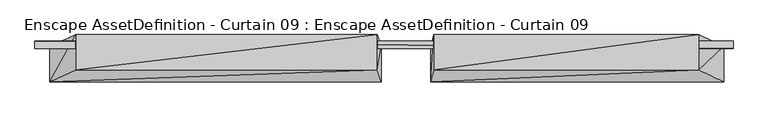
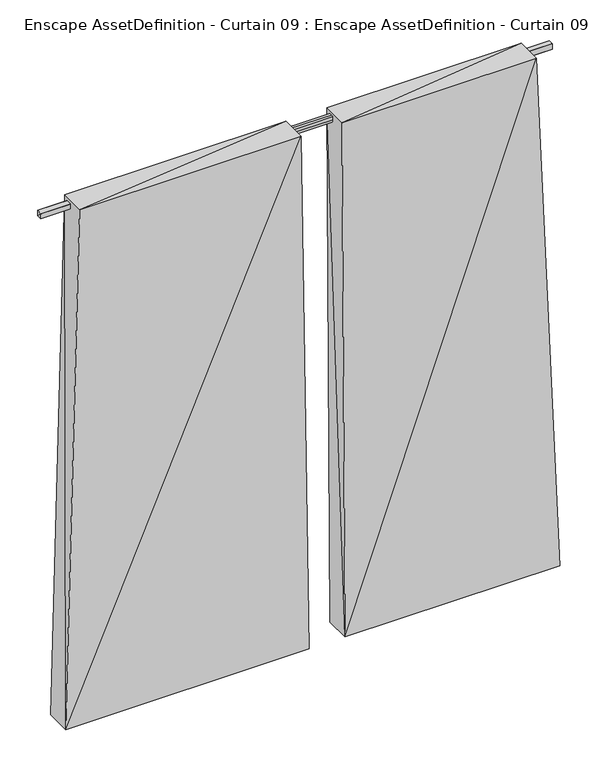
"""IFC4 building model written with IfcOpenShell, lengths in millimetres: geographic element geometry, Enscape AssetDefinition - Curtain 09 : Enscape AssetDefinition - Curtain 09."""

from ifc_helpers import new_model, si_unit, origin, place, context, project, spatial, faceted_brep, source, transform, mapped, element, save


def enscape_assetdefinition_curtain_09_enscape_assetdefinition_daeb34b5(model_context):
    return source(origin(), model_context, "Body", "Brep", [
        faceted_brep([(1143.8757181, -53.8365841, 2364.9013042), (1143.8757181, -28.9914757, 2364.9013042), (1143.8757181, -53.8365841, 2389.7464275), (-1146.6553211, -28.9914738, 2364.9010658), (-1146.6553211, -53.8365804, 2364.9010658), (1143.8757181, -28.9914776, 2389.7464275), (-1146.6553211, -53.8365841, 2389.7464275), (-1146.6553211, -28.9914738, 2389.7464275)], [[[0, 1, 2]], [[3, 1, 4]], [[2, 1, 5]], [[4, 1, 0]], [[3, 5, 1]], [[6, 2, 7]], [[6, 0, 2]], [[7, 2, 5]], [[4, 0, 6]], [[6, 3, 4]], [[7, 3, 6]], [[7, 5, 3]]]),
        faceted_brep([(1030.7382345, -124.5879456, 2405.0109386), (152.0700604, -163.6977643, 0.0), (1113.0684614, -163.6977643, 0.0001526), (152.0700008, -47.8807352, 0.0), (161.1238718, -8.7709744, 2405.0107002), (161.1238569, -124.5879456, 2405.0107002), (1113.0684614, -47.8807278, 0.0001526), (1030.7383537, -8.7709622, 2405.0109386)], [[[0, 1, 2]], [[3, 2, 1]], [[4, 1, 5]], [[1, 0, 5]], [[1, 4, 3]], [[6, 0, 2]], [[2, 3, 6]], [[7, 5, 0]], [[0, 6, 7]], [[5, 7, 4]], [[7, 3, 4]], [[3, 7, 6]]]),
        faceted_brep([(-22.781264, -124.5879456, 2405.0107002), (-1098.2402563, -163.6977643, -0.0001526), (-9.8474929, -163.6977643, 0.0), (-1098.2402563, -47.8807278, -0.0001526), (-1013.2488012, -8.770965, 2405.0107002), (-1013.2488012, -124.5879456, 2405.0104618), (-9.847627, -47.8807203, 0.0), (-22.781169, -8.7709622, 2405.0107002)], [[[0, 1, 2]], [[3, 2, 1]], [[4, 1, 5]], [[1, 0, 5]], [[1, 4, 3]], [[6, 0, 2]], [[2, 3, 6]], [[7, 5, 0]], [[0, 6, 7]], [[5, 7, 4]], [[7, 3, 4]], [[3, 7, 6]]]),
    ])


if __name__ == "__main__":
    model = new_model("IFC4")
    model_context = context("Model", 3, world=origin())
    ifc_project = project(units=[si_unit("LENGTHUNIT", "METRE", prefix="MILLI")], contexts=[model_context])
    site = spatial("IfcSite", under=ifc_project)
    building = spatial("IfcBuilding", under=site)
    placement = place(None, origin())
    enscape_assetdefinition_curtain_09_enscape_assetdefinition_shape = enscape_assetdefinition_curtain_09_enscape_assetdefinition_daeb34b5(model_context)
    element("IfcGeographicElement", 1, ObjectType="Enscape AssetDefinition - Curtain 09 : Enscape AssetDefinition - Curtain 09", at=placement, inside=building, context=model_context, shape_type="MappedRepresentation", body=[
        mapped(enscape_assetdefinition_curtain_09_enscape_assetdefinition_shape, transform((0.0, 0.0, 0.0), x_axis=(1.0, 0.0, 0.0), y_axis=(0.0, 1.0, 0.0), z_axis=(0.0, 0.0, 1.0))),
    ])
    save(model, "model.ifc")
